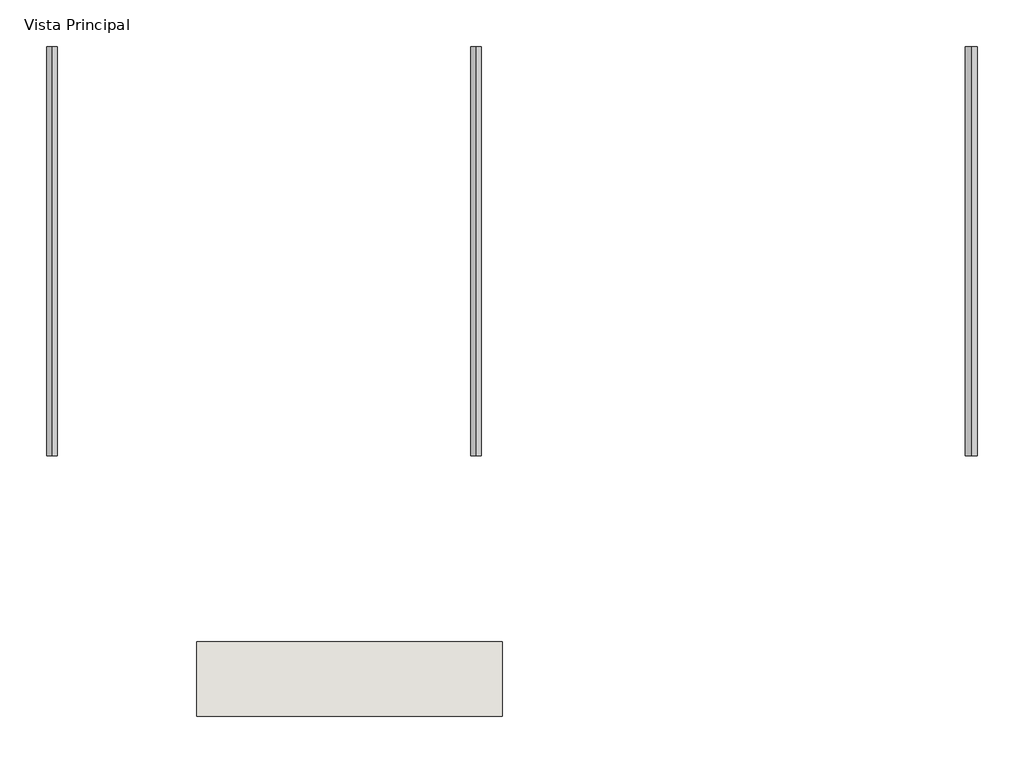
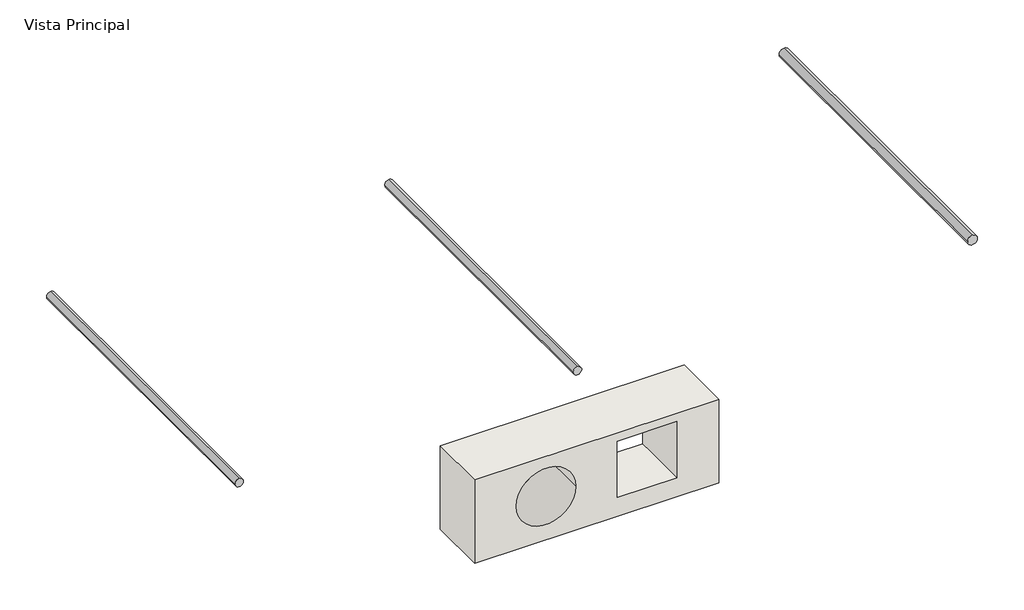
# One storey, incomplete: 3 pipe segments, 1 wall.
"""IFC4 building model written with IfcOpenShell, lengths in millimetres."""

from ifc_helpers import new_model, si_unit, point, frame, frame_2d, origin, place, context, project, spatial, polyline, circle_curve, trimmed, segment, composite_curve, outline, extrude, element, save

model = new_model("IFC4")

# Units and contexts
model_context = context("Model", 3, world=origin())
ifc_project = project(units=[si_unit("LENGTHUNIT", "METRE", prefix="MILLI")], contexts=[model_context])

# Site, building, storey
site = spatial("IfcSite", under=ifc_project)
building = spatial("IfcBuilding", under=site)
storey = spatial("IfcBuildingStorey", under=building, Name="Vista Principal", Elevation=0.0)

# Pipe segments
placement = place(None, origin())
element("IfcPipeSegment", 1, ObjectType="AmancoWavin_Tuberías_CPVCCédula80 ½\" - 8\" (6.1 mts)", at=placement, inside=storey, context=model_context, shape_type="SweptSolid", body=[
    extrude(outline(composite_curve([segment(trimmed(circle_curve(frame_2d((0.0, 2913.7504681)), 16.66875), [point((0.0, 2897.0817181))], [point((-16.66875, 2913.7504681))], False, "CARTESIAN"), True, "CONTINUOUS"), segment(trimmed(circle_curve(frame_2d((0.0, 2913.7504681)), 16.66875), [point((-16.66875, 2913.7504681))], [point((0.0, 2930.4192181))], False, "CARTESIAN"), True, "CONTINUOUS"), segment(trimmed(circle_curve(frame_2d((0.0, 2913.7504681)), 16.66875), [point((0.0, 2930.4192181))], [point((16.66875, 2913.7504681))], False, "CARTESIAN"), True, "CONTINUOUS"), segment(trimmed(circle_curve(frame_2d((0.0, 2913.7504681)), 16.66875), [point((16.66875, 2913.7504681))], [point((0.0, 2897.0817181))], False, "CARTESIAN"), True, "CONTINUOUS")], self_intersect=False)), frame((0.0, 227.8174419, 0.0), z_axis=(0.0, 1.0, 0.0), x_axis=(0.0, 0.0, 1.0)), (0.0, 0.0, 1.0), 1097.0145029),
])
element("IfcPipeSegment", 2, ObjectType="AmancoWavin_Tuberías_CPVCRD11DuralónPlatinum ½\" - 2\" (3.05 mts - 6.10 mts)", at=placement, inside=storey, context=model_context, shape_type="SweptSolid", body=[
    extrude(outline(composite_curve([segment(trimmed(circle_curve(frame_2d((0.0, 449.2479013)), 14.2875), [point((0.0, 434.9604013))], [point((-14.2875, 449.2479013))], False, "CARTESIAN"), True, "CONTINUOUS"), segment(trimmed(circle_curve(frame_2d((0.0, 449.2479013)), 14.2875), [point((-14.2875, 449.2479013))], [point((0.0, 463.5354013))], False, "CARTESIAN"), True, "CONTINUOUS"), segment(trimmed(circle_curve(frame_2d((0.0, 449.2479013)), 14.2875), [point((0.0, 463.5354013))], [point((14.2875, 449.2479013))], False, "CARTESIAN"), True, "CONTINUOUS"), segment(trimmed(circle_curve(frame_2d((0.0, 449.2479013)), 14.2875), [point((14.2875, 449.2479013))], [point((0.0, 434.9604013))], False, "CARTESIAN"), True, "CONTINUOUS")], self_intersect=False)), frame((0.0, 227.8174419, 0.0), z_axis=(0.0, 1.0, 0.0), x_axis=(0.0, 0.0, 1.0)), (0.0, 0.0, 1.0), 1097.0145029),
])
element("IfcPipeSegment", 3, ObjectType="AmancoWavin_Tuberías_CPVCRD13.5DuralónPlatinum ½\" - 1\" (3.05 mts - 6.10 mts)", at=placement, inside=storey, context=model_context, shape_type="SweptSolid", body=[
    extrude(outline(composite_curve([segment(trimmed(circle_curve(frame_2d((0.0, 1585.9446132)), 14.2875), [point((0.0, 1571.6571132))], [point((-14.2875, 1585.9446132))], False, "CARTESIAN"), True, "CONTINUOUS"), segment(trimmed(circle_curve(frame_2d((0.0, 1585.9446132)), 14.2875), [point((-14.2875, 1585.9446132))], [point((0.0, 1600.2321132))], False, "CARTESIAN"), True, "CONTINUOUS"), segment(trimmed(circle_curve(frame_2d((0.0, 1585.9446132)), 14.2875), [point((0.0, 1600.2321132))], [point((14.2875, 1585.9446132))], False, "CARTESIAN"), True, "CONTINUOUS"), segment(trimmed(circle_curve(frame_2d((0.0, 1585.9446132)), 14.2875), [point((14.2875, 1585.9446132))], [point((0.0, 1571.6571132))], False, "CARTESIAN"), True, "CONTINUOUS")], self_intersect=False)), frame((0.0, 227.8174419, 0.0), z_axis=(0.0, 1.0, 0.0), x_axis=(0.0, 0.0, 1.0)), (0.0, 0.0, 1.0), 1097.0145029),
])

# Wall
element("IfcWall", 4, ObjectType="Wall 1", at=placement, inside=storey, context=model_context, shape_type="SweptSolid", body=[
    extrude(outline(polyline([(0.0, 837.1669154), (0.0, 1657.1669154), (296.5968372, 1657.1669154), (296.5968372, 837.1669154), (0.0, 837.1669154)]), holes=[composite_curve([segment(trimmed(circle_curve(frame_2d((154.4282969, 1077.1669154)), 100.0), [point((154.4282969, 1177.1669154))], [point((154.4282969, 977.1669154))], True, "CARTESIAN"), True, "CONTINUOUS"), segment(trimmed(circle_curve(frame_2d((154.4282969, 1077.1669154)), 100.0), [point((154.4282969, 977.1669154))], [point((154.4282969, 1177.1669154))], True, "CARTESIAN"), True, "CONTINUOUS")], self_intersect=False), polyline([(66.4896004, 1517.1669154), (66.4896004, 1317.1669154), (266.4896004, 1317.1669154), (266.4896004, 1517.1669154), (66.4896004, 1517.1669154)])]), frame((0.0, -470.4012463, 0.0), z_axis=(0.0, 1.0, 0.0), x_axis=(0.0, 0.0, 1.0)), (0.0, 0.0, 1.0), 200.0),
])

save(model, "model.ifc")
